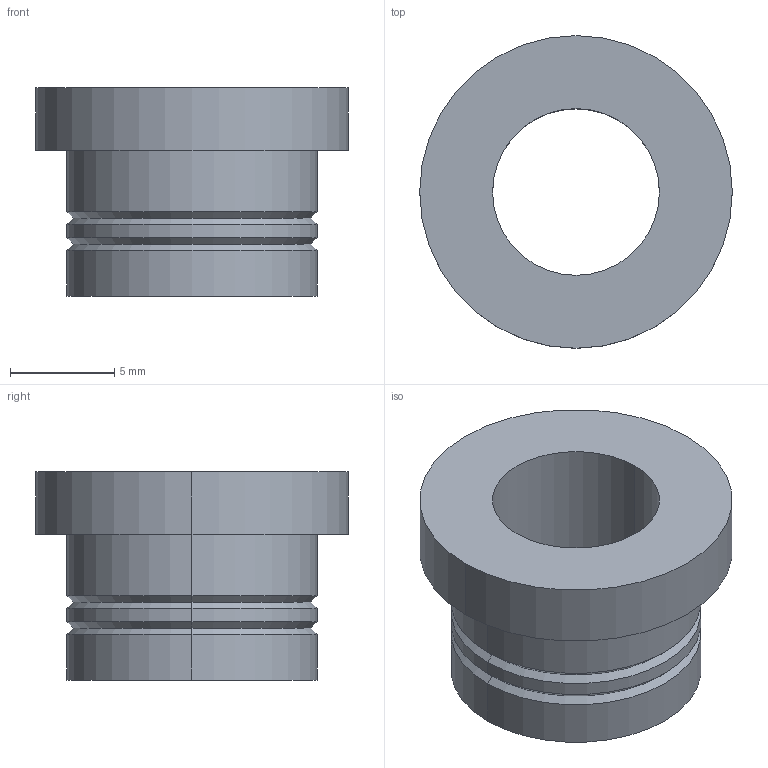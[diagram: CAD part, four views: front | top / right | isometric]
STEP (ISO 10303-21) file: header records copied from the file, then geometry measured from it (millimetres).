
FILE_DESCRIPTION(/* description */ (''),/* implementation_level */ '2;1');
FILE_NAME(/* name */ '3d_sgbt8-10_00011_r00.stp',/* time_stamp */ '2011-01-10T14:11:12+09:00',/* author */ ('MISUMI'),/* organization */ (''),/* preprocessor_version */ 'ST-DEVELOPER v11',/* originating_system */ 'UGS - NX 5.0',/* authorisation */ '');
FILE_SCHEMA (('CONFIG_CONTROL_DESIGN'));
Length unit declared in the file: millimetre
Products named in the file (1): 3d_sgbt8-10_00011_r00
Bounding box: 15 x 15 x 10 mm (x, y, z)
Volume: 812.5 mm3; surface area: 926.6 mm2
Topology: 1 solids, 1 shells, 21 faces, 42 edges, 24 vertices
Faces by surface type: cylinder 10, cone 8, plane 3
Entity records: 634 total; most frequent: DIRECTION 110, CARTESIAN_POINT 88, ORIENTED_EDGE 84, AXIS2_PLACEMENT_3D 46, EDGE_CURVE 42, EDGE_LOOP 24, VERTEX_POINT 24, CIRCLE 24
